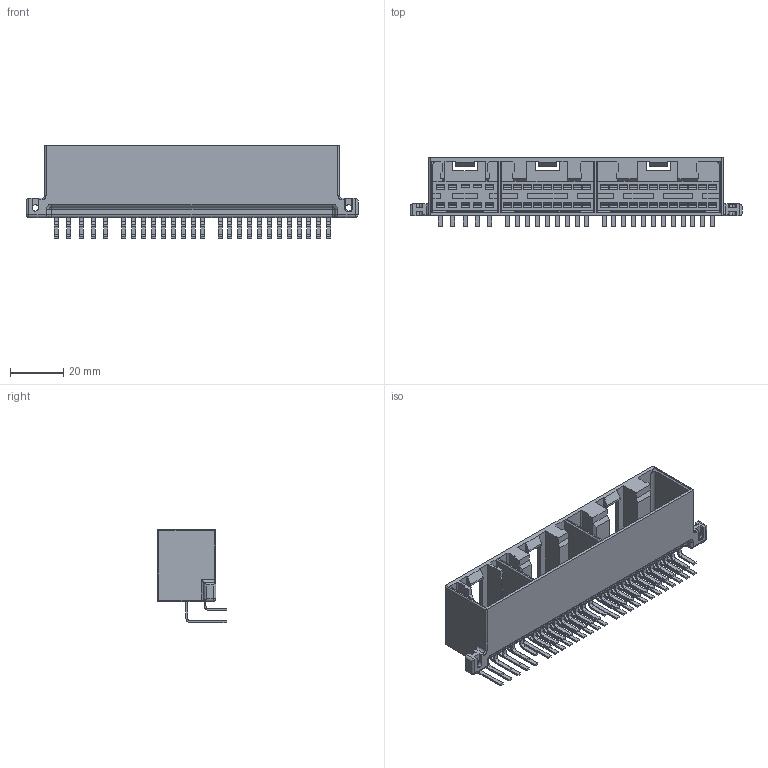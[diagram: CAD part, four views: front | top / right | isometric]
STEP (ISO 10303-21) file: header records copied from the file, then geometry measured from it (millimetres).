
FILE_DESCRIPTION((''),'2;1');
FILE_NAME('C-172319-1','2008-09-24T',('workeradm'),('Tyco Electronics Corporation'),'PRO/ENGINEER BY PARAMETRIC TECHNOLOGY CORPORATION, 2005450','PRO/ENGINEER BY PARAMETRIC TECHNOLOGY CORPORATION, 2005450','');
FILE_SCHEMA(('CONFIG_CONTROL_DESIGN', 'GEOMETRIC_VALIDATION_PROPERTIES_MIM'));
Length unit declared in the file: millimetre
Products named in the file (1): C-172319-1
Bounding box: 124.3 x 25.9 x 34.9 mm (x, y, z)
Volume: 23154.8 mm3; surface area: 28142.2 mm2
Topology: 1 solids, 1 shells, 1468 faces, 3877 edges, 2538 vertices
Faces by surface type: plane 1274, cylinder 175, torus 10, sphere 6, bspline 3
Entity records: 44979 total; most frequent: CARTESIAN_POINT 8235, ORIENTED_EDGE 7754, DIRECTION 7100, EDGE_CURVE 3877, VECTOR 3522, LINE 3522, VERTEX_POINT 2538, AXIS2_PLACEMENT_3D 1789
